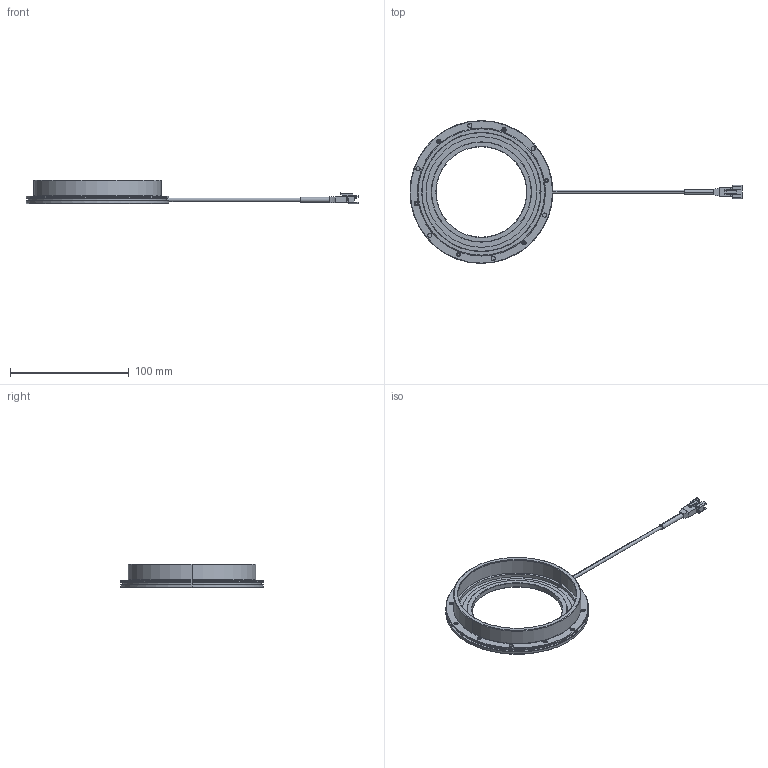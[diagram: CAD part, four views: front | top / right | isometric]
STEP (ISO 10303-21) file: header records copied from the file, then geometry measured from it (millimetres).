
FILE_DESCRIPTION(('STEP AP214'),'1');
FILE_NAME('VLR-12076_DRAWING_3D.step','2023-09-13T11:31:19',(' '),(' '),'Spatial InterOp 3D',' ',' ');
FILE_SCHEMA(('AUTOMOTIVE_DESIGN { 1 0 10303 214 1 1 1 1 }'));
Length unit declared in the file: millimetre
Products named in the file (5): SIDE LIGHT BASE LEVEL1_TMR0003D307A; 30D COVER LEVEL1_TMR0003D311A; SM 2.5 CABLE 2P_CABLE + 2601-3H; ___Y M1.6 x 4_M1.6 x 4 ____
Assembly tree (9 placements, depth 2):
  (unnamed)
    SIDE LIGHT BASE LEVEL1_TMR0003D307A
    30D COVER LEVEL1_TMR0003D311A
    SM 2.5 CABLE 2P_CABLE + 2601-3H
    ___Y M1.6 x 4_M1.6 x 4 ____  x6
Bounding box: 279 x 120 x 20.1 mm (x, y, z)
Volume: 40638.4 mm3; surface area: 37744.9 mm2
Topology: 10 solids, 10 shells, 426 faces, 1022 edges, 653 vertices
Faces by surface type: plane 218, cylinder 153, cone 44, torus 6, bspline 5
Entity records: 13557 total; most frequent: CARTESIAN_POINT 2307, DIRECTION 1786, ORIENTED_EDGE 1704, EDGE_CURVE 852, AXIS2_PLACEMENT_3D 631, VERTEX_POINT 543, LINE 524, VECTOR 524
